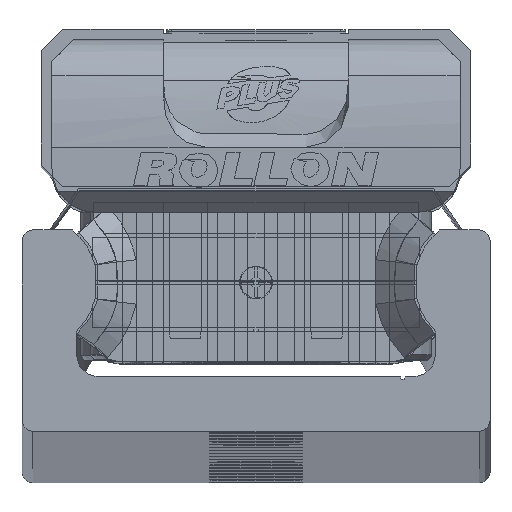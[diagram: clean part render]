
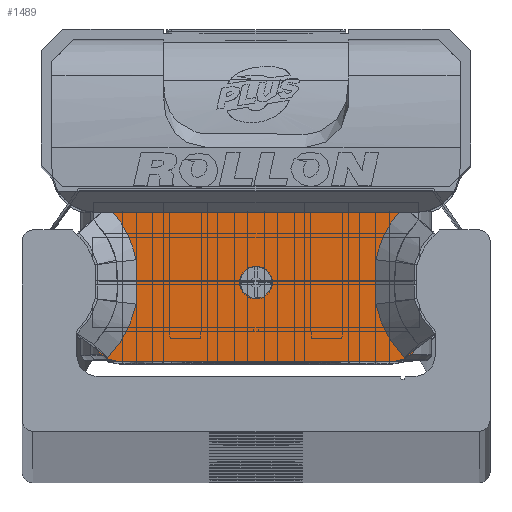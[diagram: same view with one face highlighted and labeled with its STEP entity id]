
A CAD part, top view. The second image highlights one B-rep face of the part: STEP entity #1489.
In plain terms, the highlighted planar face has unit normal (0, 0, 1) as drawn and (0, 0, -1) by its records, which use the part's own axes.
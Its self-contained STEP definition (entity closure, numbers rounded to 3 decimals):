
#1489 = ADVANCED_FACE( '', ( #3411, #3412 ), #3413, .F. );
#3411 = FACE_BOUND( '', #5925, .T. );
#3412 = FACE_OUTER_BOUND( '', #5926, .T. );
#3413 = PLANE( '', #5927 );
#5925 = EDGE_LOOP( '', ( #10036 ) );
#5926 = EDGE_LOOP( '', ( #10037, #10038, #10039, #10040, #10041, #10042, #10043, #10044, #10045, #10046, #10047, #10048 ) );
#5927 = AXIS2_PLACEMENT_3D( '', #10049, #10050, #10051 );
#10036 = ORIENTED_EDGE( '', *, *, #14825, .T. );
#10037 = ORIENTED_EDGE( '', *, *, #14826, .T. );
#10038 = ORIENTED_EDGE( '', *, *, #14827, .F. );
#10039 = ORIENTED_EDGE( '', *, *, #14753, .T. );
#10040 = ORIENTED_EDGE( '', *, *, #14425, .F. );
#10041 = ORIENTED_EDGE( '', *, *, #14650, .T. );
#10042 = ORIENTED_EDGE( '', *, *, #14190, .T. );
#10043 = ORIENTED_EDGE( '', *, *, #14828, .T. );
#10044 = ORIENTED_EDGE( '', *, *, #14794, .T. );
#10045 = ORIENTED_EDGE( '', *, *, #13365, .T. );
#10046 = ORIENTED_EDGE( '', *, *, #14813, .T. );
#10047 = ORIENTED_EDGE( '', *, *, #14829, .T. );
#10048 = ORIENTED_EDGE( '', *, *, #14830, .T. );
#10049 = CARTESIAN_POINT( '', ( 14.9, 7.35, -13.25 ) );
#10050 = DIRECTION( '', ( 0., 0., 1. ) );
#10051 = DIRECTION( '', ( 1., 0., 0. ) );
#13365 = EDGE_CURVE( '', #15725, #15723, #15726, .T. );
#14190 = EDGE_CURVE( '', #17144, #17142, #17145, .T. );
#14425 = EDGE_CURVE( '', #16507, #17512, #17513, .T. );
#14650 = EDGE_CURVE( '', #16507, #17144, #17845, .T. );
#14753 = EDGE_CURVE( '', #18009, #17512, #18010, .T. );
#14794 = EDGE_CURVE( '', #18067, #15725, #18068, .T. );
#14813 = EDGE_CURVE( '', #15723, #18094, #18096, .T. );
#14825 = EDGE_CURVE( '', #18110, #18110, #18111, .T. );
#14826 = EDGE_CURVE( '', #18112, #15699, #18113, .T. );
#14827 = EDGE_CURVE( '', #18009, #15699, #18114, .T. );
#14828 = EDGE_CURVE( '', #17142, #18067, #18115, .T. );
#14829 = EDGE_CURVE( '', #18094, #18116, #18117, .T. );
#14830 = EDGE_CURVE( '', #18116, #18112, #18118, .T. );
#15699 = VERTEX_POINT( '', #19199 );
#15723 = VERTEX_POINT( '', #19236 );
#15725 = VERTEX_POINT( '', #19241 );
#15726 = LINE( '', #19242, #19243 );
#16507 = VERTEX_POINT( '', #20462 );
#17142 = VERTEX_POINT( '', #21351 );
#17144 = VERTEX_POINT( '', #21354 );
#17145 = B_SPLINE_CURVE_WITH_KNOTS( '', 2, ( #21355, #21356, #21357, #21358, #21359 ), .UNSPECIFIED., .F., .F., ( 3, 2, 3 ), ( 0., 0.5, 1. ), .UNSPECIFIED. );
#17512 = VERTEX_POINT( '', #21837 );
#17513 = CIRCLE( '', #21838, 2.5 );
#17845 = B_SPLINE_CURVE_WITH_KNOTS( '', 1, ( #22300, #22301 ), .UNSPECIFIED., .F., .F., ( 2, 2 ), ( 0., 1. ), .UNSPECIFIED. );
#18009 = VERTEX_POINT( '', #22502 );
#18010 = LINE( '', #22503, #22504 );
#18067 = VERTEX_POINT( '', #22582 );
#18068 = B_SPLINE_CURVE_WITH_KNOTS( '', 2, ( #22583, #22584, #22585, #22586, #22587 ), .UNSPECIFIED., .F., .F., ( 3, 2, 3 ), ( 0., 0.5, 0.868 ), .UNSPECIFIED. );
#18094 = VERTEX_POINT( '', #22626 );
#18096 = B_SPLINE_CURVE_WITH_KNOTS( '', 2, ( #22629, #22630, #22631, #22632, #22633 ), .UNSPECIFIED., .F., .F., ( 3, 2, 3 ), ( 0.133, 0.5, 1. ), .UNSPECIFIED. );
#18110 = VERTEX_POINT( '', #22652 );
#18111 = CIRCLE( '', #22653, 1.5 );
#18112 = VERTEX_POINT( '', #22654 );
#18113 = B_SPLINE_CURVE_WITH_KNOTS( '', 1, ( #22655, #22656 ), .UNSPECIFIED., .F., .F., ( 2, 2 ), ( 0., 1. ), .UNSPECIFIED. );
#18114 = CIRCLE( '', #22657, 2.5 );
#18115 = B_SPLINE_CURVE_WITH_KNOTS( '', 2, ( #22658, #22659, #22660 ), .UNSPECIFIED., .F., .F., ( 3, 3 ), ( 0., 1. ), .UNSPECIFIED. );
#18116 = VERTEX_POINT( '', #22661 );
#18117 = B_SPLINE_CURVE_WITH_KNOTS( '', 2, ( #22662, #22663, #22664 ), .UNSPECIFIED., .F., .F., ( 3, 3 ), ( 0., 1. ), .UNSPECIFIED. );
#18118 = B_SPLINE_CURVE_WITH_KNOTS( '', 2, ( #22665, #22666, #22667, #22668, #22669 ), .UNSPECIFIED., .F., .F., ( 3, 2, 3 ), ( 0., 0.5, 1. ), .UNSPECIFIED. );
#19199 = CARTESIAN_POINT( '', ( 14.906, -5.717, -13.25 ) );
#19236 = CARTESIAN_POINT( '', ( 13.12, 6.4, -13.25 ) );
#19241 = CARTESIAN_POINT( '', ( -13.119, 6.4, -13.25 ) );
#19242 = CARTESIAN_POINT( '', ( 14.9, 6.4, -13.25 ) );
#19243 = VECTOR( '', #24046, 1000. );
#20462 = CARTESIAN_POINT( '', ( -14.904, -5.718, -13.25 ) );
#21351 = CARTESIAN_POINT( '', ( -11.012, -2.045, -13.25 ) );
#21354 = CARTESIAN_POINT( '', ( -13.628, -6.965, -13.25 ) );
#21355 = CARTESIAN_POINT( '', ( -13.628, -6.965, -13.25 ) );
#21356 = CARTESIAN_POINT( '', ( -12.638, -5.946, -13.25 ) );
#21357 = CARTESIAN_POINT( '', ( -11.97, -4.691, -13.25 ) );
#21358 = CARTESIAN_POINT( '', ( -11.303, -3.437, -13.25 ) );
#21359 = CARTESIAN_POINT( '', ( -11.012, -2.045, -13.25 ) );
#21837 = CARTESIAN_POINT( '', ( -12.58, -7.3, -13.25 ) );
#21838 = AXIS2_PLACEMENT_3D( '', #25518, #25519, #25520 );
#22300 = CARTESIAN_POINT( '', ( -14.915, -5.713, -13.25 ) );
#22301 = CARTESIAN_POINT( '', ( -13.628, -6.965, -13.25 ) );
#22502 = CARTESIAN_POINT( '', ( 12.58, -7.3, -13.25 ) );
#22503 = CARTESIAN_POINT( '', ( 12.58, -7.3, -13.25 ) );
#22504 = VECTOR( '', #25978, 1000. );
#22582 = CARTESIAN_POINT( '', ( -11.012, 2.045, -13.25 ) );
#22583 = CARTESIAN_POINT( '', ( -11.012, 2.045, -13.25 ) );
#22584 = CARTESIAN_POINT( '', ( -11.302, 3.432, -13.25 ) );
#22585 = CARTESIAN_POINT( '', ( -11.967, 4.685, -13.25 ) );
#22586 = CARTESIAN_POINT( '', ( -12.456, 5.606, -13.25 ) );
#22587 = CARTESIAN_POINT( '', ( -13.119, 6.4, -13.25 ) );
#22626 = CARTESIAN_POINT( '', ( 11.012, 2.045, -13.25 ) );
#22629 = CARTESIAN_POINT( '', ( 13.119, 6.4, -13.25 ) );
#22630 = CARTESIAN_POINT( '', ( 12.459, 5.608, -13.25 ) );
#22631 = CARTESIAN_POINT( '', ( 11.968, 4.684, -13.25 ) );
#22632 = CARTESIAN_POINT( '', ( 11.301, 3.427, -13.25 ) );
#22633 = CARTESIAN_POINT( '', ( 11.012, 2.045, -13.25 ) );
#22652 = CARTESIAN_POINT( '', ( 1.5, -0.05, -13.25 ) );
#22653 = AXIS2_PLACEMENT_3D( '', #26051, #26052, #26053 );
#22654 = CARTESIAN_POINT( '', ( 13.628, -6.965, -13.25 ) );
#22655 = CARTESIAN_POINT( '', ( 13.628, -6.965, -13.25 ) );
#22656 = CARTESIAN_POINT( '', ( 14.9, -5.728, -13.25 ) );
#22657 = AXIS2_PLACEMENT_3D( '', #26054, #26055, #26056 );
#22658 = CARTESIAN_POINT( '', ( -11.012, -2.045, -13.25 ) );
#22659 = CARTESIAN_POINT( '', ( -10.888, 0., -13.25 ) );
#22660 = CARTESIAN_POINT( '', ( -11.012, 2.045, -13.25 ) );
#22661 = CARTESIAN_POINT( '', ( 11.012, -2.045, -13.25 ) );
#22662 = CARTESIAN_POINT( '', ( 11.012, 2.045, -13.25 ) );
#22663 = CARTESIAN_POINT( '', ( 10.888, 0., -13.25 ) );
#22664 = CARTESIAN_POINT( '', ( 11.012, -2.045, -13.25 ) );
#22665 = CARTESIAN_POINT( '', ( 11.012, -2.045, -13.25 ) );
#22666 = CARTESIAN_POINT( '', ( 11.301, -3.43, -13.25 ) );
#22667 = CARTESIAN_POINT( '', ( 11.972, -4.69, -13.25 ) );
#22668 = CARTESIAN_POINT( '', ( 12.642, -5.95, -13.25 ) );
#22669 = CARTESIAN_POINT( '', ( 13.628, -6.965, -13.25 ) );
#24046 = DIRECTION( '', ( 1., 0., 0. ) );
#25518 = CARTESIAN_POINT( '', ( -12.58, -4.8, -13.25 ) );
#25519 = DIRECTION( '', ( 0., 0., 1. ) );
#25520 = DIRECTION( '', ( 1., 0., 0. ) );
#25978 = DIRECTION( '', ( -1., 0., 0. ) );
#26051 = CARTESIAN_POINT( '', ( 0., -0.05, -13.25 ) );
#26052 = DIRECTION( '', ( 0., 0., 1. ) );
#26053 = DIRECTION( '', ( 1., 0., 0. ) );
#26054 = CARTESIAN_POINT( '', ( 12.58, -4.8, -13.25 ) );
#26055 = DIRECTION( '', ( 0., 0., 1. ) );
#26056 = DIRECTION( '', ( 1., 0., 0. ) );
